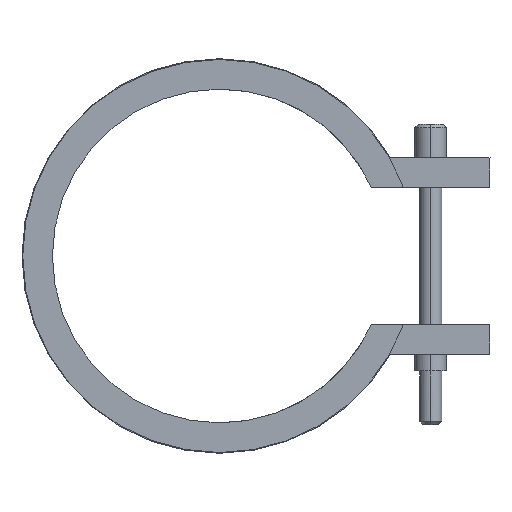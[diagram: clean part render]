
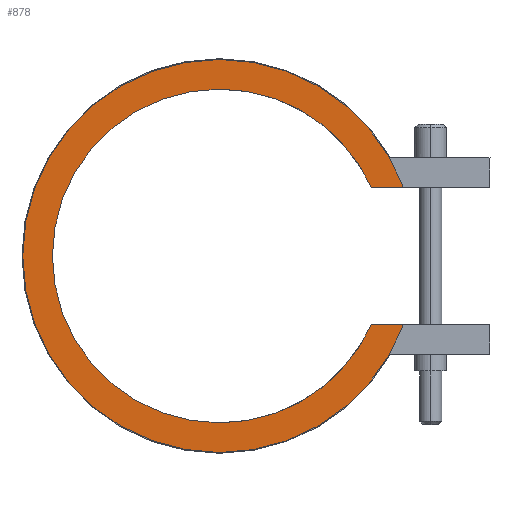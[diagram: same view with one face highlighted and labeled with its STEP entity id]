
A CAD part, left-side view. The second image highlights one B-rep face of the part: STEP entity #878.
In plain terms, the highlighted planar face has unit normal (-1, 0, 0).
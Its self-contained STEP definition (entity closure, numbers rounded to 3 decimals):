
#416=CARTESIAN_POINT('Vertex',(-15.,-20.511,-9.25)) ;
#419=CARTESIAN_POINT('Line Origine',(-15.,-22.672,-9.25)) ;
#423=CARTESIAN_POINT('Vertex',(-15.,-24.833,-9.25)) ;
#469=CARTESIAN_POINT('Vertex',(-15.,0.,-26.5)) ;
#472=CARTESIAN_POINT('Axis2P3D Location',(-15.,0.,0.)) ;
#493=CARTESIAN_POINT('Vertex',(-15.,0.,26.5)) ;
#496=CARTESIAN_POINT('Axis2P3D Location',(-15.,0.,0.)) ;
#508=CARTESIAN_POINT('Axis2P3D Location',(-15.,0.,0.)) ;
#512=CARTESIAN_POINT('Vertex',(-15.,-24.833,9.25)) ;
#532=CARTESIAN_POINT('Line Origine',(-15.,-22.672,9.25)) ;
#536=CARTESIAN_POINT('Vertex',(-15.,-20.511,9.25)) ;
#824=CARTESIAN_POINT('Axis2P3D Location',(-15.,0.,0.)) ;
#828=CARTESIAN_POINT('Vertex',(-15.,0.,-22.5)) ;
#851=CARTESIAN_POINT('Axis2P3D Location',(-15.,0.,0.)) ;
#856=CARTESIAN_POINT('Axis2P3D Location',(-15.,0.,0.)) ;
#860=CARTESIAN_POINT('Vertex',(-15.,0.,22.5)) ;
#863=CARTESIAN_POINT('Axis2P3D Location',(-15.,0.,0.)) ;
#420=DIRECTION('Vector Direction',(0.,1.,0.)) ;
#473=DIRECTION('Axis2P3D Direction',(1.,0.,-0.)) ;
#497=DIRECTION('Axis2P3D Direction',(1.,0.,-0.)) ;
#509=DIRECTION('Axis2P3D Direction',(1.,0.,-0.)) ;
#533=DIRECTION('Vector Direction',(0.,-1.,0.)) ;
#825=DIRECTION('Axis2P3D Direction',(1.,0.,-0.)) ;
#852=DIRECTION('Axis2P3D Direction',(1.,0.,0.)) ;
#853=DIRECTION('Axis2P3D XDirection',(0.,0.,-1.)) ;
#857=DIRECTION('Axis2P3D Direction',(1.,0.,0.)) ;
#864=DIRECTION('Axis2P3D Direction',(1.,0.,0.)) ;
#474=AXIS2_PLACEMENT_3D('Circle Axis2P3D',#472,#473,$) ;
#498=AXIS2_PLACEMENT_3D('Circle Axis2P3D',#496,#497,$) ;
#510=AXIS2_PLACEMENT_3D('Circle Axis2P3D',#508,#509,$) ;
#826=AXIS2_PLACEMENT_3D('Circle Axis2P3D',#824,#825,$) ;
#854=AXIS2_PLACEMENT_3D('Plane Axis2P3D',#851,#852,#853) ;
#858=AXIS2_PLACEMENT_3D('Circle Axis2P3D',#856,#857,$) ;
#865=AXIS2_PLACEMENT_3D('Circle Axis2P3D',#863,#864,$) ;
#869=ORIENTED_EDGE('',*,*,#425,.T.) ;
#870=ORIENTED_EDGE('',*,*,#830,.T.) ;
#871=ORIENTED_EDGE('',*,*,#862,.T.) ;
#872=ORIENTED_EDGE('',*,*,#867,.T.) ;
#873=ORIENTED_EDGE('',*,*,#538,.T.) ;
#874=ORIENTED_EDGE('',*,*,#514,.F.) ;
#875=ORIENTED_EDGE('',*,*,#500,.F.) ;
#876=ORIENTED_EDGE('',*,*,#476,.F.) ;
#421=VECTOR('Line Direction',#420,1.) ;
#534=VECTOR('Line Direction',#533,1.) ;
#878=ADVANCED_FACE('14045030',(#877),#855,.F.) ;
#475=CIRCLE('generated circle',#474,26.5) ;
#499=CIRCLE('generated circle',#498,26.5) ;
#511=CIRCLE('generated circle',#510,26.5) ;
#827=CIRCLE('generated circle',#826,22.5) ;
#859=CIRCLE('generated circle',#858,22.5) ;
#866=CIRCLE('generated circle',#865,22.5) ;
#425=EDGE_CURVE('',#424,#417,#422,.T.) ;
#476=EDGE_CURVE('',#424,#470,#475,.T.) ;
#500=EDGE_CURVE('',#470,#494,#499,.T.) ;
#514=EDGE_CURVE('',#494,#513,#511,.T.) ;
#538=EDGE_CURVE('',#537,#513,#535,.T.) ;
#830=EDGE_CURVE('',#417,#829,#827,.T.) ;
#862=EDGE_CURVE('',#829,#861,#859,.T.) ;
#867=EDGE_CURVE('',#861,#537,#866,.T.) ;
#868=EDGE_LOOP('',(#869,#870,#871,#872,#873,#874,#875,#876)) ;
#877=FACE_OUTER_BOUND('',#868,.T.) ;
#422=LINE('Line',#419,#421) ;
#535=LINE('Line',#532,#534) ;
#855=PLANE('Plane',#854) ;
#417=VERTEX_POINT('',#416) ;
#424=VERTEX_POINT('',#423) ;
#470=VERTEX_POINT('',#469) ;
#494=VERTEX_POINT('',#493) ;
#513=VERTEX_POINT('',#512) ;
#537=VERTEX_POINT('',#536) ;
#829=VERTEX_POINT('',#828) ;
#861=VERTEX_POINT('',#860) ;
